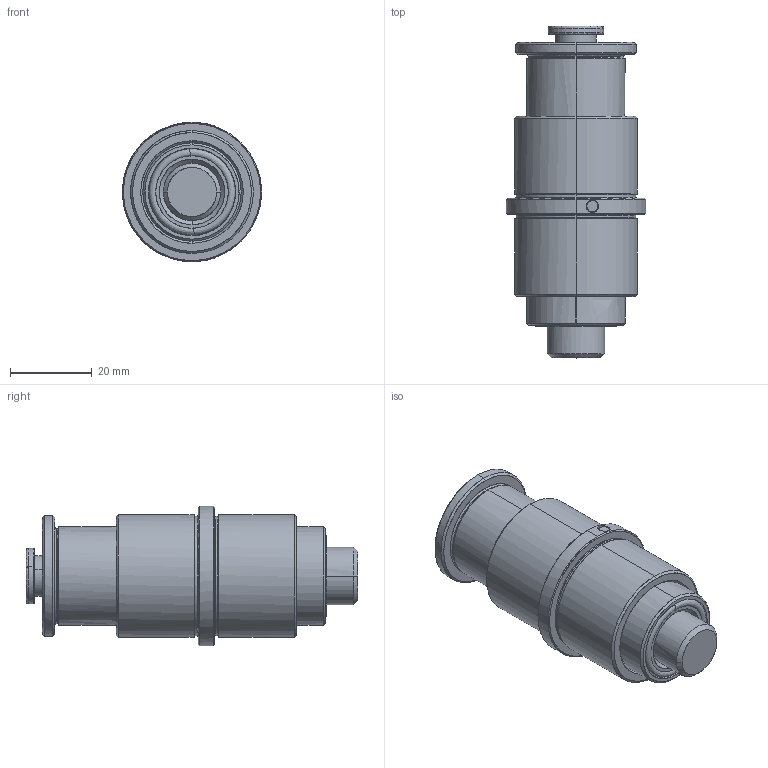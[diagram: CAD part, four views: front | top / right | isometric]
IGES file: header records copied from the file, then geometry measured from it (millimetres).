
Start section: START RECORD GO HERE.
Global section: file name: ae062430.igs; native system: DASSAULT SYSTEMES CATIA V5 R20 - www.3ds.com; preprocessor: CATIA Version 5 Release 20 ; author: Utente; organization: NB04-ASUS; date: 20201103.203059; units: millimetre
Bounding box: 34 x 81 x 34 mm (x, y, z)
Surface area: 25917.9 mm2 (no closed solid volume)
Topology: 0 solids, 0 shells, 787 faces, 3871 edges, 3818 vertices
Faces by surface type: revolution 433, plane 188, bspline 166
